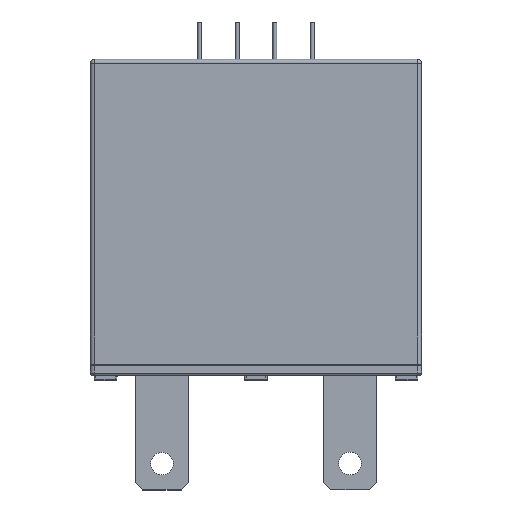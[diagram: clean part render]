
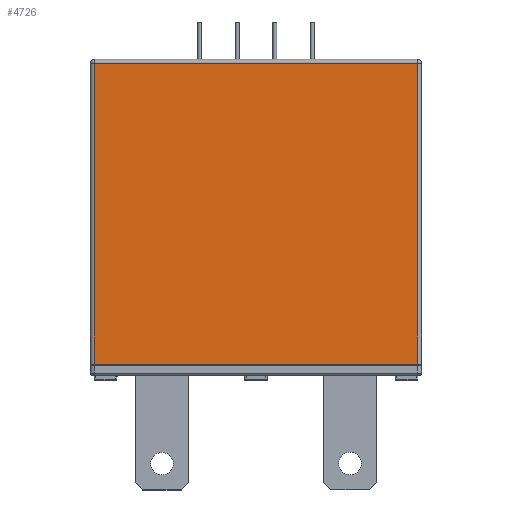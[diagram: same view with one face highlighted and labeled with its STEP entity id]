
A CAD part, top view. The second image highlights one B-rep face of the part: STEP entity #4726.
In plain terms, the highlighted planar face has unit normal (0, 0, 1).
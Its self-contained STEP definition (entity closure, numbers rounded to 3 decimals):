
#525=DIRECTION('',(1.,0.,0.));
#526=VECTOR('',#525,43.);
#527=CARTESIAN_POINT('',(-21.5,1.5,11.5));
#528=LINE('',#527,#526);
#756=DIRECTION('',(1.,0.,0.));
#757=VECTOR('',#756,43.);
#758=CARTESIAN_POINT('',(-21.5,41.5,11.5));
#759=LINE('',#758,#757);
#763=DIRECTION('',(0.,1.,0.));
#764=VECTOR('',#763,40.);
#765=CARTESIAN_POINT('',(-21.5,1.5,11.5));
#766=LINE('',#765,#764);
#794=DIRECTION('',(0.,1.,0.));
#795=VECTOR('',#794,40.);
#796=CARTESIAN_POINT('',(21.5,1.5,11.5));
#797=LINE('',#796,#795);
#4027=CARTESIAN_POINT('',(-21.5,1.5,11.5));
#4028=VERTEX_POINT('',#4027);
#4029=CARTESIAN_POINT('',(21.5,1.5,11.5));
#4030=VERTEX_POINT('',#4029);
#4173=CARTESIAN_POINT('',(-21.5,41.5,11.5));
#4174=VERTEX_POINT('',#4173);
#4177=CARTESIAN_POINT('',(21.5,41.5,11.5));
#4178=VERTEX_POINT('',#4177);
#4713=CARTESIAN_POINT('',(-21.5,1.5,11.5));
#4714=DIRECTION('',(0.,0.,1.));
#4715=DIRECTION('',(1.,0.,0.));
#4716=AXIS2_PLACEMENT_3D('',#4713,#4714,#4715);
#4717=PLANE('',#4716);
#4719=ORIENTED_EDGE('',*,*,#4718,.T.);
#4721=ORIENTED_EDGE('',*,*,#4720,.F.);
#4722=ORIENTED_EDGE('',*,*,#4522,.F.);
#4723=ORIENTED_EDGE('',*,*,#4705,.T.);
#4724=EDGE_LOOP('',(#4719,#4721,#4722,#4723));
#4725=FACE_OUTER_BOUND('',#4724,.F.);
#4726=ADVANCED_FACE('',(#4725),#4717,.T.);
#4522=EDGE_CURVE('',#4028,#4030,#528,.T.);
#4705=EDGE_CURVE('',#4028,#4174,#766,.T.);
#4718=EDGE_CURVE('',#4174,#4178,#759,.T.);
#4720=EDGE_CURVE('',#4030,#4178,#797,.T.);
